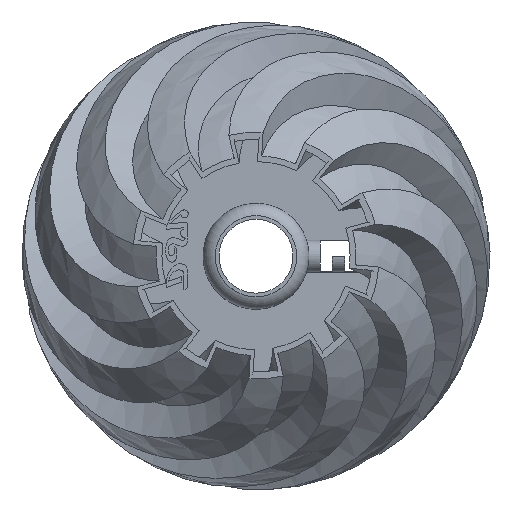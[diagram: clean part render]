
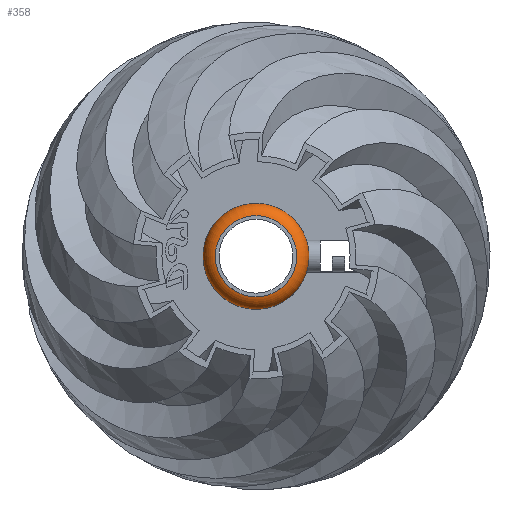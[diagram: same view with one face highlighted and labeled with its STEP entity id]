
A CAD part, top view. The second image highlights one B-rep face of the part: STEP entity #358.
In plain terms, the highlighted toroidal (fillet/blend) face has major radius 15 mm and minor radius 6.5 mm.
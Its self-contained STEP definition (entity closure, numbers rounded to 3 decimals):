
#358=ADVANCED_FACE('',(#799,#800),#801,.T.);
#799=FACE_OUTER_BOUND('',#8313,.T.);
#800=FACE_OUTER_BOUND('',#8314,.T.);
#801=TOROIDAL_SURFACE('',#8315,15.0,6.5);
#8313=EDGE_LOOP('',(#20287));
#8314=EDGE_LOOP('',(#20288));
#8315=AXIS2_PLACEMENT_3D('',#20289,#20290,#20291);
#20287=ORIENTED_EDGE('',*,*,#21475,.T.);
#20288=ORIENTED_EDGE('',*,*,#21480,.F.);
#20289=CARTESIAN_POINT('',(0.0,0.0,15.0));
#20290=DIRECTION('',(0.0,0.0,-1.0));
#20291=DIRECTION('',(-1.0,0.0,0.0));
#21475=EDGE_CURVE('',#22344,#22344,#22345,.T.);
#21480=EDGE_CURVE('',#22352,#22352,#22353,.F.);
#22344=VERTEX_POINT('',#31759);
#22345=CIRCLE('',#31760,21.5);
#22352=VERTEX_POINT('',#31814);
#22353=CIRCLE('',#31815,16.5);
#31759=CARTESIAN_POINT('',(21.5,0.0,15.0));
#31760=AXIS2_PLACEMENT_3D('',#32340,#32341,#32342);
#31814=CARTESIAN_POINT('',(-16.5,0.,21.325));
#31815=AXIS2_PLACEMENT_3D('',#32345,#32346,#32347);
#32340=CARTESIAN_POINT('',(0.0,0.0,15.0));
#32341=DIRECTION('',(0.0,0.0,1.0));
#32342=DIRECTION('',(1.0,0.0,0.0));
#32345=CARTESIAN_POINT('',(0.0,0.0,21.325));
#32346=DIRECTION('',(0.0,0.0,-1.0));
#32347=DIRECTION('',(-1.0,0.0,0.0));
